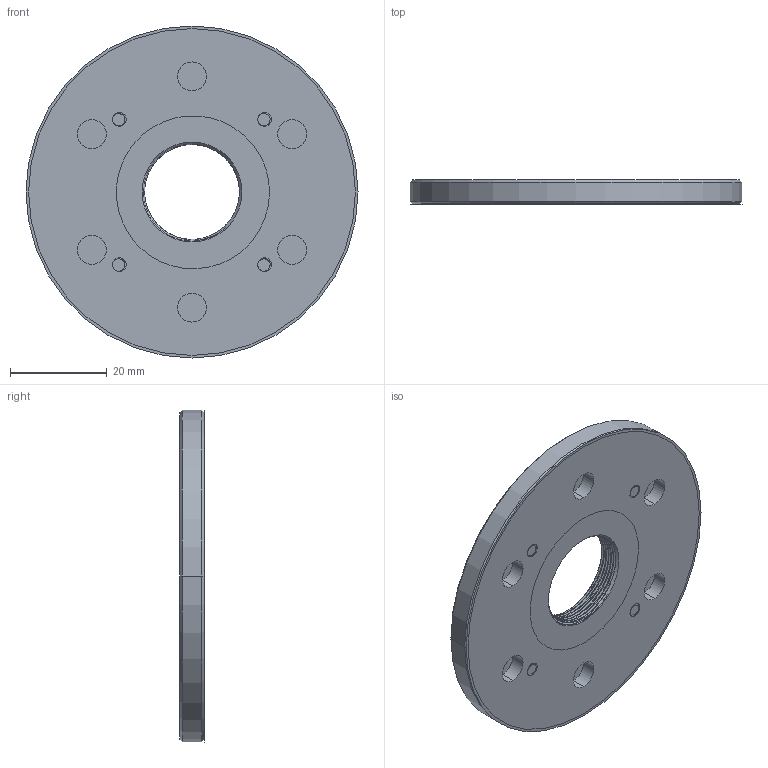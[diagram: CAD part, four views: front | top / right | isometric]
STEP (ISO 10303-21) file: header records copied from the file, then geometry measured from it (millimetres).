
FILE_DESCRIPTION((''),'2;1');
FILE_NAME('MA-OMD2','2024-03-30T10:54:17',('R&D'),(''),'CREO PARAMETRIC BY PTC INC, 2021063','CREO PARAMETRIC BY PTC INC, 2021063','');
FILE_SCHEMA(('CONFIG_CONTROL_DESIGN'));
Length unit declared in the file: millimetre
Products named in the file (1): MA-OMD2
Bounding box: 68.58 x 5 x 68.58 mm (x, y, z)
Volume: 16192.6 mm3; surface area: 11604.1 mm2
Topology: 1 solids, 6 shells, 156 faces, 437 edges, 290 vertices
Faces by surface type: cylinder 97, bspline 42, plane 9, cone 8
Entity records: 13521 total; most frequent: CARTESIAN_POINT 9940, ORIENTED_EDGE 840, DIRECTION 525, EDGE_CURVE 437, VERTEX_POINT 290, B_SPLINE_CURVE_WITH_KNOTS 226, AXIS2_PLACEMENT_3D 199, EDGE_LOOP 179
